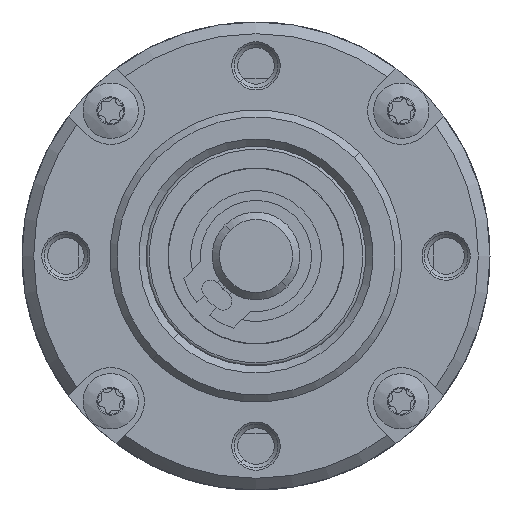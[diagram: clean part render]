
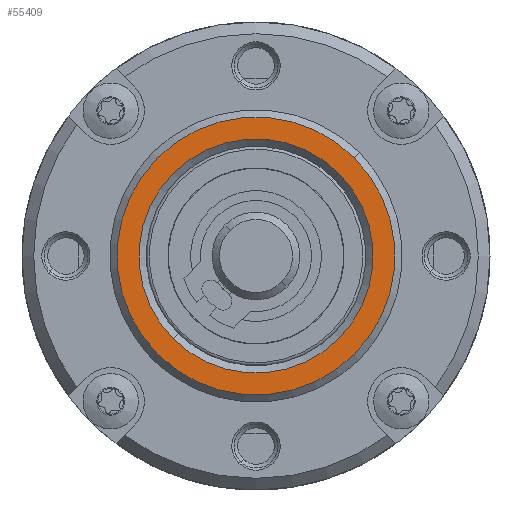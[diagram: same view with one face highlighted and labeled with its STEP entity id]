
A CAD part, left-side view. The second image highlights one B-rep face of the part: STEP entity #55409.
In plain terms, the highlighted planar face has unit normal (-1, 0, 0) as drawn and (1, 0, 0) by its records, which use the part's own axes.
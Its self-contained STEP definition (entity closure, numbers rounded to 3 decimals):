
#1933 = ORIENTED_EDGE ( 'NONE', *, *, #62946, .T. ) ;
#3311 = DIRECTION ( 'NONE',  ( 0., 0., 1. ) ) ;
#5092 = CARTESIAN_POINT ( 'NONE',  ( 9.5, 0., 0. ) ) ;
#6816 = PLANE ( 'NONE',  #64346 ) ;
#6995 = AXIS2_PLACEMENT_3D ( 'NONE', #69598, #36543, #3311 ) ;
#8525 = CARTESIAN_POINT ( 'NONE',  ( 9.5, 0., 0. ) ) ;
#9398 = CARTESIAN_POINT ( 'NONE',  ( 9.5, 0., 0. ) ) ;
#10629 = DIRECTION ( 'NONE',  ( 0., 0., 1. ) ) ;
#10911 = FACE_BOUND ( 'NONE', #24041, .T. ) ;
#12133 = ORIENTED_EDGE ( 'NONE', *, *, #35431, .T. ) ;
#14058 = DIRECTION ( 'NONE',  ( 0., 0., -1. ) ) ;
#14955 = DIRECTION ( 'NONE',  ( 0., 0., -1. ) ) ;
#24041 = EDGE_LOOP ( 'NONE', ( #1933, #12133 ) ) ;
#25401 = AXIS2_PLACEMENT_3D ( 'NONE', #8525, #47330, #14058 ) ;
#26755 = CIRCLE ( 'NONE', #6995, 9.5 ) ;
#29135 = CARTESIAN_POINT ( 'NONE',  ( 9.5, 0., 0. ) ) ;
#30535 = EDGE_CURVE ( 'NONE', #31323, #69025, #31581, .T. ) ;
#31323 = VERTEX_POINT ( 'NONE', #68348 ) ;
#31581 = CIRCLE ( 'NONE', #53292, 9.5 ) ;
#34743 = DIRECTION ( 'NONE',  ( 0., 0., -1. ) ) ;
#35431 = EDGE_CURVE ( 'NONE', #62626, #45574, #70759, .T. ) ;
#36543 = DIRECTION ( 'NONE',  ( -1., 0., 0. ) ) ;
#40469 = CARTESIAN_POINT ( 'NONE',  ( 9.5, 0., 9.5 ) ) ;
#40806 = EDGE_LOOP ( 'NONE', ( #68328, #68871 ) ) ;
#43832 = DIRECTION ( 'NONE',  ( -1., 0., 0. ) ) ;
#45574 = VERTEX_POINT ( 'NONE', #54607 ) ;
#47330 = DIRECTION ( 'NONE',  ( -1., 0., 0. ) ) ;
#48219 = DIRECTION ( 'NONE',  ( -1., 0., 0. ) ) ;
#50716 = CARTESIAN_POINT ( 'NONE',  ( 9.5, 0., 8. ) ) ;
#51028 = EDGE_CURVE ( 'NONE', #69025, #31323, #26755, .T. ) ;
#51993 = AXIS2_PLACEMENT_3D ( 'NONE', #9398, #48219, #14955 ) ;
#53292 = AXIS2_PLACEMENT_3D ( 'NONE', #5092, #43832, #10629 ) ;
#54607 = CARTESIAN_POINT ( 'NONE',  ( 9.5, 0., -8. ) ) ;
#55409 = ADVANCED_FACE ( 'NONE', ( #68044, #10911 ), #6816, .T. ) ;
#57139 = CIRCLE ( 'NONE', #51993, 8. ) ;
#62626 = VERTEX_POINT ( 'NONE', #50716 ) ;
#62946 = EDGE_CURVE ( 'NONE', #45574, #62626, #57139, .T. ) ;
#64346 = AXIS2_PLACEMENT_3D ( 'NONE', #29135, #67769, #34743 ) ;
#67769 = DIRECTION ( 'NONE',  ( 1., 0., 0. ) ) ;
#68044 = FACE_OUTER_BOUND ( 'NONE', #40806, .T. ) ;
#68328 = ORIENTED_EDGE ( 'NONE', *, *, #51028, .F. ) ;
#68348 = CARTESIAN_POINT ( 'NONE',  ( 9.5, 0., -9.5 ) ) ;
#68871 = ORIENTED_EDGE ( 'NONE', *, *, #30535, .F. ) ;
#69025 = VERTEX_POINT ( 'NONE', #40469 ) ;
#69598 = CARTESIAN_POINT ( 'NONE',  ( 9.5, 0., 0. ) ) ;
#70759 = CIRCLE ( 'NONE', #25401, 8. ) ;
